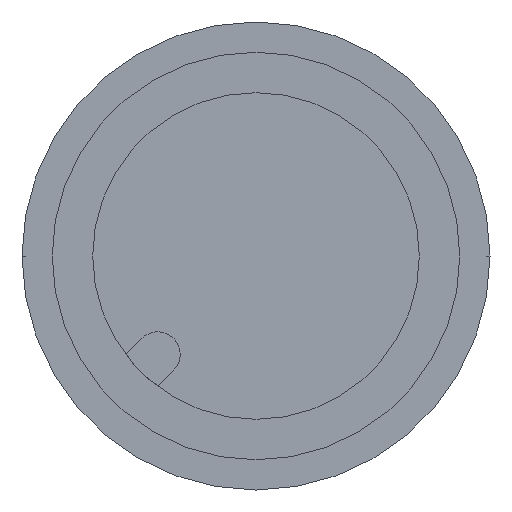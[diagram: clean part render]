
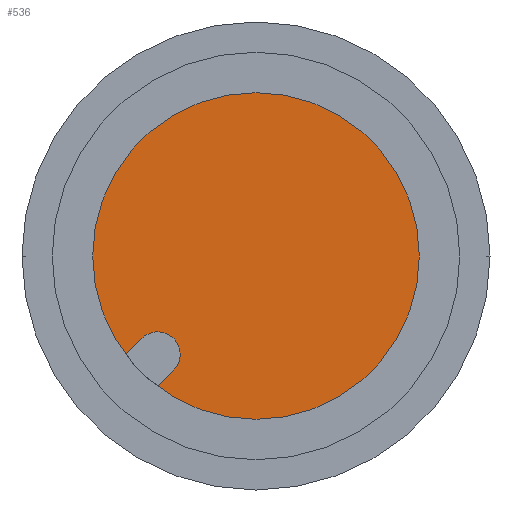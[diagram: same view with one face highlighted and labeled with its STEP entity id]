
A CAD part, front view. The second image highlights one B-rep face of the part: STEP entity #536.
In plain terms, the highlighted planar face has unit normal (0, -1, 0).
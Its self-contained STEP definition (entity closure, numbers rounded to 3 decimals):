
#536=ADVANCED_FACE('',(#1489),#1490,.T.);
#1489=FACE_OUTER_BOUND('',#2904,.T.);
#1490=PLANE('',#2905);
#2904=EDGE_LOOP('',(#4618,#4619));
#2905=AXIS2_PLACEMENT_3D('',#4620,#4621,#4622);
#4618=ORIENTED_EDGE('',*,*,#8331,.F.);
#4619=ORIENTED_EDGE('',*,*,#8332,.F.);
#4620=CARTESIAN_POINT('',(0.0,-36.8,0.));
#4621=DIRECTION('',(0.0,-1.0,0.));
#4622=DIRECTION('',(1.0,0.0,0.0));
#8331=EDGE_CURVE('',#9823,#9824,#9825,.T.);
#8332=EDGE_CURVE('',#9824,#9823,#9826,.T.);
#9823=VERTEX_POINT('',#11850);
#9824=VERTEX_POINT('',#11851);
#9825=CIRCLE('',#11852,5.0);
#9826=CIRCLE('',#11853,5.0);
#11850=CARTESIAN_POINT('',(5.0,-36.8,0.));
#11851=CARTESIAN_POINT('',(-5.0,-36.8,0.));
#11852=AXIS2_PLACEMENT_3D('',#14974,#14975,#14976);
#11853=AXIS2_PLACEMENT_3D('',#14977,#14978,#14979);
#14974=CARTESIAN_POINT('',(0.0,-36.8,0.));
#14975=DIRECTION('',(0.0,1.0,0.));
#14976=DIRECTION('',(1.0,0.0,0.0));
#14977=CARTESIAN_POINT('',(0.0,-36.8,0.));
#14978=DIRECTION('',(0.0,1.0,0.));
#14979=DIRECTION('',(1.0,0.0,0.0));
